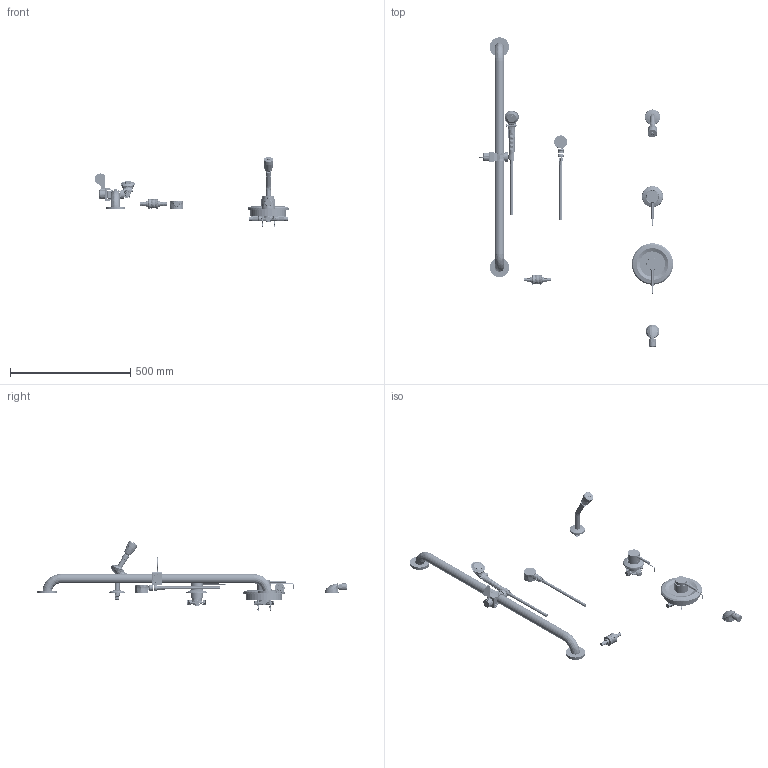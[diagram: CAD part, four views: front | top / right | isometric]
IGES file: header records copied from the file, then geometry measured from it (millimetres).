
Start section:  PTC IGES file: sh-pb5-33-054_rev030724.igs
Global section: file name: sh-pb5-33-054_rev030724.igs; native system: Creo Parametric by PTC Inc.; preprocessor: 2021184; author: rodjo; organization: Unknown; date: 20240307.120810; units: inch
Bounding box: 806.32 x 1283.64 x 290.85 mm (x, y, z)
Surface area: 550088.5 mm2 (no closed solid volume)
Topology: 0 solids, 0 shells, 1785 faces, 16691 edges, 23015 vertices
Faces by surface type: revolution 1335, bspline 448, extrusion 2
